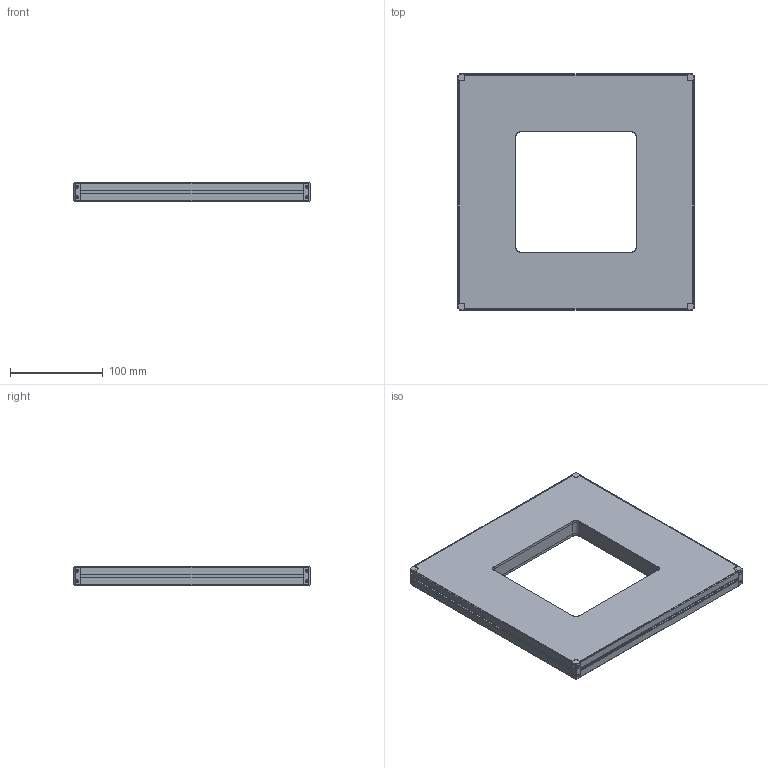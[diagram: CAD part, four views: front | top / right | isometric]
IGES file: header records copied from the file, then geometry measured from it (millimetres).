
Start section: SolidWorks IGES file using analytic representation for surfaces
Global section: file name: E:\SynologyDrive\新款图纸\标准产品\开孔面光\F240240-130X130\ED\F240240-130X130.IGS; native system: SolidWorks 2021; preprocessor: SolidWorks 2021; author: Administrator; date: 220221.194630; units: millimetre
Bounding box: 255 x 255 x 20.1 mm (x, y, z)
Surface area: 293220.1 mm2 (no closed solid volume)
Topology: 0 solids, 0 shells, 450 faces, 6344 edges, 6344 vertices
Faces by surface type: bspline 254, revolution 196
